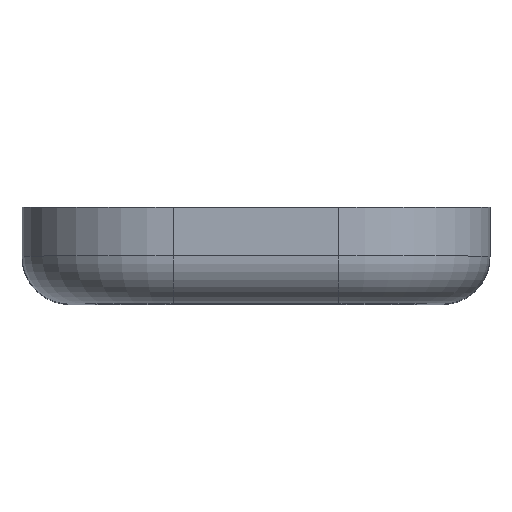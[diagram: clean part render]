
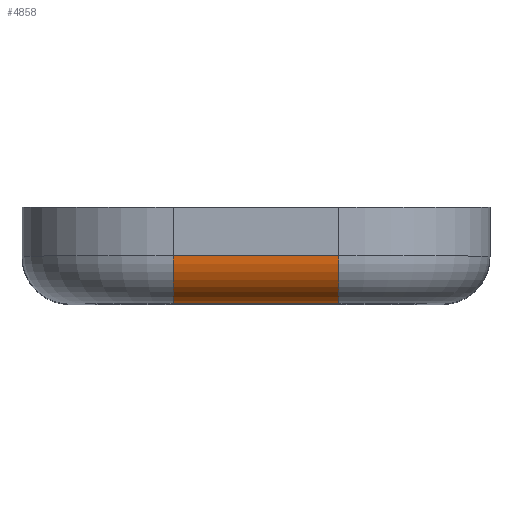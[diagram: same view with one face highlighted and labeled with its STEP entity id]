
A CAD part, top view. The second image highlights one B-rep face of the part: STEP entity #4858.
In plain terms, the highlighted cylindrical face has radius 9.2 mm (diameter 18.4 mm), a partial arc.
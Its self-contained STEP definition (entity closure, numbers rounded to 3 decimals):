
#1013 = PLANE('',#1014);
#1014 = AXIS2_PLACEMENT_3D('',#1015,#1016,#1017);
#1015 = CARTESIAN_POINT('',(-45.2,-14.4,-76.2));
#1016 = DIRECTION('',(0.,1.,0.));
#1017 = DIRECTION('',(0.,0.,1.));
#1041 = TOROIDAL_SURFACE('',#1042,20.,9.2);
#1042 = AXIS2_PLACEMENT_3D('',#1043,#1044,#1045);
#1043 = CARTESIAN_POINT('',(-16.,-5.2,47.));
#1044 = DIRECTION('',(0.,1.,0.));
#1045 = DIRECTION('',(0.,0.,1.));
#2251 = VERTEX_POINT('',#2252);
#2252 = CARTESIAN_POINT('',(-16.,-14.4,67.));
#2278 = EDGE_CURVE('',#2279,#2251,#2281,.T.);
#2279 = VERTEX_POINT('',#2280);
#2280 = CARTESIAN_POINT('',(16.,-14.4,67.));
#2281 = SURFACE_CURVE('',#2282,(#2286,#2293),.PCURVE_S1.);
#2282 = LINE('',#2283,#2284);
#2283 = CARTESIAN_POINT('',(16.,-14.4,67.));
#2284 = VECTOR('',#2285,1.);
#2285 = DIRECTION('',(-1.,-0.,-0.));
#2286 = PCURVE('',#1013,#2287);
#2287 = DEFINITIONAL_REPRESENTATION('',(#2288),#2292);
#2288 = LINE('',#2289,#2290);
#2289 = CARTESIAN_POINT('',(143.2,61.2));
#2290 = VECTOR('',#2291,1.);
#2291 = DIRECTION('',(-0.,-1.));
#2292 = ( GEOMETRIC_REPRESENTATION_CONTEXT(2) 
PARAMETRIC_REPRESENTATION_CONTEXT() REPRESENTATION_CONTEXT('2D SPACE',''
  ) );
#2293 = PCURVE('',#2294,#2299);
#2294 = CYLINDRICAL_SURFACE('',#2295,9.2);
#2295 = AXIS2_PLACEMENT_3D('',#2296,#2297,#2298);
#2296 = CARTESIAN_POINT('',(16.,-5.2,67.));
#2297 = DIRECTION('',(-1.,-0.,-0.));
#2298 = DIRECTION('',(0.,-1.,0.));
#2299 = DEFINITIONAL_REPRESENTATION('',(#2300),#2304);
#2300 = LINE('',#2301,#2302);
#2301 = CARTESIAN_POINT('',(0.,0.));
#2302 = VECTOR('',#2303,1.);
#2303 = DIRECTION('',(0.,1.));
#2304 = ( GEOMETRIC_REPRESENTATION_CONTEXT(2) 
PARAMETRIC_REPRESENTATION_CONTEXT() REPRESENTATION_CONTEXT('2D SPACE',''
  ) );
#2327 = TOROIDAL_SURFACE('',#2328,20.,9.2);
#2328 = AXIS2_PLACEMENT_3D('',#2329,#2330,#2331);
#2329 = CARTESIAN_POINT('',(16.,-5.2,47.));
#2330 = DIRECTION('',(0.,1.,0.));
#2331 = DIRECTION('',(1.,0.,0.));
#2951 = EDGE_CURVE('',#2251,#2952,#2954,.T.);
#2952 = VERTEX_POINT('',#2953);
#2953 = CARTESIAN_POINT('',(-16.,-5.2,76.2));
#2954 = SURFACE_CURVE('',#2955,(#2960,#2966),.PCURVE_S1.);
#2955 = CIRCLE('',#2956,9.2);
#2956 = AXIS2_PLACEMENT_3D('',#2957,#2958,#2959);
#2957 = CARTESIAN_POINT('',(-16.,-5.2,67.));
#2958 = DIRECTION('',(-1.,-0.,0.));
#2959 = DIRECTION('',(0.,-1.,0.));
#2960 = PCURVE('',#1041,#2961);
#2961 = DEFINITIONAL_REPRESENTATION('',(#2962),#2965);
#2962 = B_SPLINE_CURVE_WITH_KNOTS('',1,(#2963,#2964),.UNSPECIFIED.,.F.,
  .F.,(2,2),(0.,1.571),.PIECEWISE_BEZIER_KNOTS.);
#2963 = CARTESIAN_POINT('',(0.,4.712));
#2964 = CARTESIAN_POINT('',(0.,6.283));
#2965 = ( GEOMETRIC_REPRESENTATION_CONTEXT(2) 
PARAMETRIC_REPRESENTATION_CONTEXT() REPRESENTATION_CONTEXT('2D SPACE',''
  ) );
#2966 = PCURVE('',#2294,#2967);
#2967 = DEFINITIONAL_REPRESENTATION('',(#2968),#2971);
#2968 = B_SPLINE_CURVE_WITH_KNOTS('',1,(#2969,#2970),.UNSPECIFIED.,.F.,
  .F.,(2,2),(0.,1.571),.PIECEWISE_BEZIER_KNOTS.);
#2969 = CARTESIAN_POINT('',(0.,32.));
#2970 = CARTESIAN_POINT('',(1.571,32.));
#2971 = ( GEOMETRIC_REPRESENTATION_CONTEXT(2) 
PARAMETRIC_REPRESENTATION_CONTEXT() REPRESENTATION_CONTEXT('2D SPACE',''
  ) );
#4810 = EDGE_CURVE('',#2279,#4811,#4813,.T.);
#4811 = VERTEX_POINT('',#4812);
#4812 = CARTESIAN_POINT('',(16.,-5.2,76.2));
#4813 = SURFACE_CURVE('',#4814,(#4819,#4825),.PCURVE_S1.);
#4814 = CIRCLE('',#4815,9.2);
#4815 = AXIS2_PLACEMENT_3D('',#4816,#4817,#4818);
#4816 = CARTESIAN_POINT('',(16.,-5.2,67.));
#4817 = DIRECTION('',(-1.,0.,0.));
#4818 = DIRECTION('',(0.,0.,1.));
#4819 = PCURVE('',#2327,#4820);
#4820 = DEFINITIONAL_REPRESENTATION('',(#4821),#4824);
#4821 = B_SPLINE_CURVE_WITH_KNOTS('',1,(#4822,#4823),.UNSPECIFIED.,.F.,
  .F.,(2,2),(4.712,6.283),.PIECEWISE_BEZIER_KNOTS.);
#4822 = CARTESIAN_POINT('',(-1.571,4.712));
#4823 = CARTESIAN_POINT('',(-1.571,6.283));
#4824 = ( GEOMETRIC_REPRESENTATION_CONTEXT(2) 
PARAMETRIC_REPRESENTATION_CONTEXT() REPRESENTATION_CONTEXT('2D SPACE',''
  ) );
#4825 = PCURVE('',#2294,#4826);
#4826 = DEFINITIONAL_REPRESENTATION('',(#4827),#4830);
#4827 = B_SPLINE_CURVE_WITH_KNOTS('',1,(#4828,#4829),.UNSPECIFIED.,.F.,
  .F.,(2,2),(4.712,6.283),.PIECEWISE_BEZIER_KNOTS.);
#4828 = CARTESIAN_POINT('',(0.,0.));
#4829 = CARTESIAN_POINT('',(1.571,0.));
#4830 = ( GEOMETRIC_REPRESENTATION_CONTEXT(2) 
PARAMETRIC_REPRESENTATION_CONTEXT() REPRESENTATION_CONTEXT('2D SPACE',''
  ) );
#4858 = ADVANCED_FACE('',(#4859),#2294,.T.);
#4859 = FACE_BOUND('',#4860,.T.);
#4860 = EDGE_LOOP('',(#4861,#4862,#4888,#4889));
#4861 = ORIENTED_EDGE('',*,*,#4810,.T.);
#4862 = ORIENTED_EDGE('',*,*,#4863,.T.);
#4863 = EDGE_CURVE('',#4811,#2952,#4864,.T.);
#4864 = SURFACE_CURVE('',#4865,(#4869,#4876),.PCURVE_S1.);
#4865 = LINE('',#4866,#4867);
#4866 = CARTESIAN_POINT('',(16.,-5.2,76.2));
#4867 = VECTOR('',#4868,1.);
#4868 = DIRECTION('',(-1.,-0.,-0.));
#4869 = PCURVE('',#2294,#4870);
#4870 = DEFINITIONAL_REPRESENTATION('',(#4871),#4875);
#4871 = LINE('',#4872,#4873);
#4872 = CARTESIAN_POINT('',(1.571,0.));
#4873 = VECTOR('',#4874,1.);
#4874 = DIRECTION('',(0.,1.));
#4875 = ( GEOMETRIC_REPRESENTATION_CONTEXT(2) 
PARAMETRIC_REPRESENTATION_CONTEXT() REPRESENTATION_CONTEXT('2D SPACE',''
  ) );
#4876 = PCURVE('',#4877,#4882);
#4877 = PLANE('',#4878);
#4878 = AXIS2_PLACEMENT_3D('',#4879,#4880,#4881);
#4879 = CARTESIAN_POINT('',(-45.2,-14.4,76.2));
#4880 = DIRECTION('',(0.,0.,1.));
#4881 = DIRECTION('',(1.,0.,0.));
#4882 = DEFINITIONAL_REPRESENTATION('',(#4883),#4887);
#4883 = LINE('',#4884,#4885);
#4884 = CARTESIAN_POINT('',(61.2,9.2));
#4885 = VECTOR('',#4886,1.);
#4886 = DIRECTION('',(-1.,-0.));
#4887 = ( GEOMETRIC_REPRESENTATION_CONTEXT(2) 
PARAMETRIC_REPRESENTATION_CONTEXT() REPRESENTATION_CONTEXT('2D SPACE',''
  ) );
#4888 = ORIENTED_EDGE('',*,*,#2951,.F.);
#4889 = ORIENTED_EDGE('',*,*,#2278,.F.);
